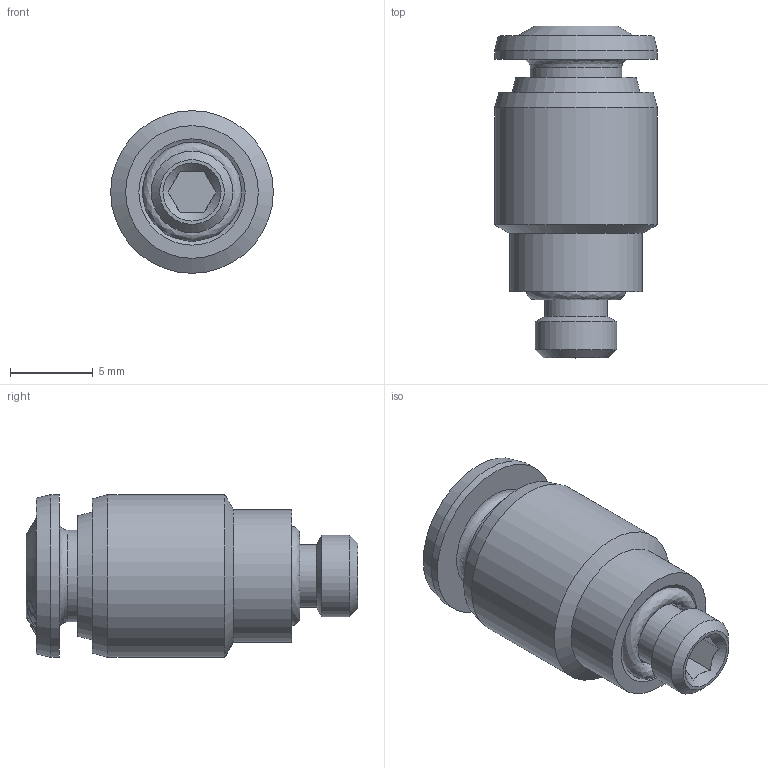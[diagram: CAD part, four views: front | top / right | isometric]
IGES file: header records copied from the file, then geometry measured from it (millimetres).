
Start section: SolidWorks IGES file using analytic representation for surfaces
Global section: file name: K:\Disegni Esecutivi\SERIE 50000\ASSIEMI_50000\50010\ASSIEMI_.IGES_50010\5001000001A.IGS; native system: SolidWorks 2012; preprocessor: SolidWorks 2012; author: cad05; date: 120924.150805; units: millimetre
Bounding box: 9.8 x 20 x 9.8 mm (x, y, z)
Surface area: 861.4 mm2 (no closed solid volume)
Topology: 0 solids, 0 shells, 156 faces, 786 edges, 756 vertices
Faces by surface type: bspline 119, revolution 37
